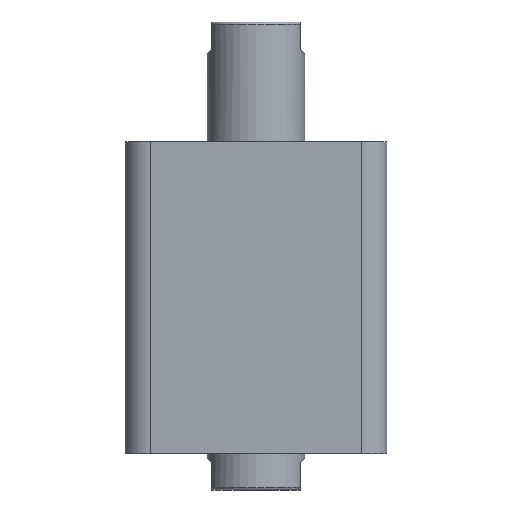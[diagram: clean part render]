
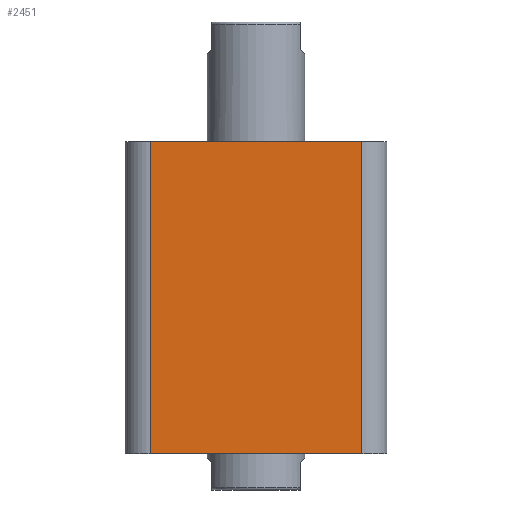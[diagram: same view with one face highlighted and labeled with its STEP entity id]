
A CAD part, front view. The second image highlights one B-rep face of the part: STEP entity #2451.
In plain terms, the highlighted planar face has unit normal (0, -1, 0).
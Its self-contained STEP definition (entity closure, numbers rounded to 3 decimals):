
#36 = VERTEX_POINT ( 'NONE', #1125 ) ;
#100 = EDGE_CURVE ( 'NONE', #1552, #36, #605, .T. ) ;
#101 = EDGE_CURVE ( 'NONE', #1553, #1552, #606, .T. ) ;
#102 = EDGE_CURVE ( 'NONE', #1559, #1553, #609, .T. ) ;
#103 = EDGE_CURVE ( 'NONE', #1559, #36, #611, .T. ) ;
#382 = AXIS2_PLACEMENT_3D ( 'NONE', #2286, #2291, #2292 ) ;
#605 = LINE ( 'NONE', #1301, #608 ) ;
#606 = LINE ( 'NONE', #1300, #610 ) ;
#608 = VECTOR ( 'NONE', #1283, 1000. ) ;
#609 = LINE ( 'NONE', #1306, #612 ) ;
#610 = VECTOR ( 'NONE', #1305, 1000. ) ;
#611 = LINE ( 'NONE', #1308, #614 ) ;
#612 = VECTOR ( 'NONE', #1307, 1000. ) ;
#614 = VECTOR ( 'NONE', #1309, 1000. ) ;
#868 = FACE_OUTER_BOUND ( 'NONE', #1582, .T. ) ;
#1125 = CARTESIAN_POINT ( 'NONE',  ( 38., -47., 112. ) ) ;
#1283 = DIRECTION ( 'NONE',  ( 0., 0., 1. ) ) ;
#1300 = CARTESIAN_POINT ( 'NONE',  ( -47., -47., 0. ) ) ;
#1301 = CARTESIAN_POINT ( 'NONE',  ( 38., -47., 112. ) ) ;
#1305 = DIRECTION ( 'NONE',  ( 1., 0., 0. ) ) ;
#1306 = CARTESIAN_POINT ( 'NONE',  ( -38., -47., 112. ) ) ;
#1307 = DIRECTION ( 'NONE',  ( 0., 0., -1. ) ) ;
#1308 = CARTESIAN_POINT ( 'NONE',  ( -47., -47., 112. ) ) ;
#1309 = DIRECTION ( 'NONE',  ( 1., 0., 0. ) ) ;
#1552 = VERTEX_POINT ( 'NONE', #2758 ) ;
#1553 = VERTEX_POINT ( 'NONE', #2750 ) ;
#1559 = VERTEX_POINT ( 'NONE', #2764 ) ;
#1582 = EDGE_LOOP ( 'NONE', ( #2999, #2998, #2993, #2997 ) ) ;
#2286 = CARTESIAN_POINT ( 'NONE',  ( -47., -47., 112. ) ) ;
#2287 = PLANE ( 'NONE',  #382 ) ;
#2291 = DIRECTION ( 'NONE',  ( 0., 1., 0. ) ) ;
#2292 = DIRECTION ( 'NONE',  ( 0., 0., 1. ) ) ;
#2451 = ADVANCED_FACE ( 'NONE', ( #868 ), #2287, .F. ) ;
#2750 = CARTESIAN_POINT ( 'NONE',  ( -38., -47., 0. ) ) ;
#2758 = CARTESIAN_POINT ( 'NONE',  ( 38., -47., 0. ) ) ;
#2764 = CARTESIAN_POINT ( 'NONE',  ( -38., -47., 112. ) ) ;
#2993 = ORIENTED_EDGE ( 'NONE', *, *, #101, .T. ) ;
#2997 = ORIENTED_EDGE ( 'NONE', *, *, #100, .T. ) ;
#2998 = ORIENTED_EDGE ( 'NONE', *, *, #102, .T. ) ;
#2999 = ORIENTED_EDGE ( 'NONE', *, *, #103, .F. ) ;
